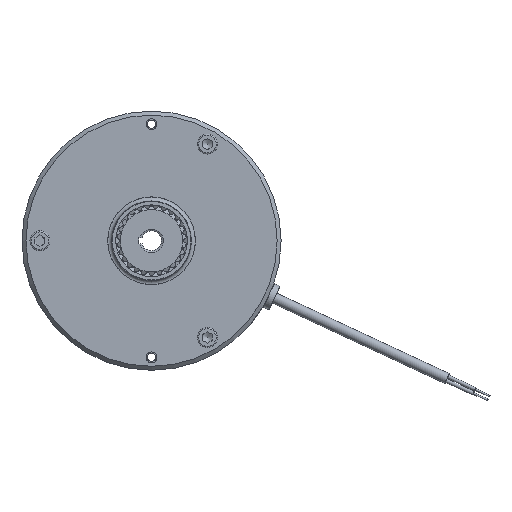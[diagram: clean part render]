
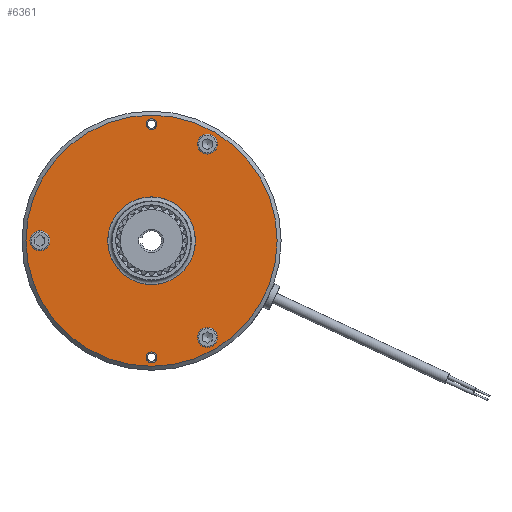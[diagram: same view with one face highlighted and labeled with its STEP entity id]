
A CAD part, left-side view. The second image highlights one B-rep face of the part: STEP entity #6361.
In plain terms, the highlighted planar face has unit normal (-1, 0, 0).
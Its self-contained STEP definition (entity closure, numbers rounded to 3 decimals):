
#525=FACE_BOUND('',#1487,.T.);
#526=FACE_BOUND('',#1488,.T.);
#527=FACE_BOUND('',#1489,.T.);
#528=FACE_BOUND('',#1490,.T.);
#529=FACE_BOUND('',#1491,.T.);
#530=FACE_BOUND('',#1492,.T.);
#694=CIRCLE('',#6782,5.);
#695=CIRCLE('',#6783,5.);
#708=CIRCLE('',#6810,5.);
#709=CIRCLE('',#6811,5.);
#738=CIRCLE('',#6866,5.);
#739=CIRCLE('',#6867,5.);
#759=CIRCLE('',#6905,2.7);
#760=CIRCLE('',#6906,2.7);
#762=CIRCLE('',#6909,2.7);
#763=CIRCLE('',#6910,2.7);
#765=CIRCLE('',#6913,63.);
#766=CIRCLE('',#6915,22.);
#1136=FACE_OUTER_BOUND('',#1486,.T.);
#1486=EDGE_LOOP('',(#4908));
#1487=EDGE_LOOP('',(#4909,#4910));
#1488=EDGE_LOOP('',(#4911,#4912));
#1489=EDGE_LOOP('',(#4913,#4914));
#1490=EDGE_LOOP('',(#4915,#4916));
#1491=EDGE_LOOP('',(#4917,#4918));
#1492=EDGE_LOOP('',(#4919));
#2575=VERTEX_POINT('',#10053);
#2576=VERTEX_POINT('',#10054);
#2602=VERTEX_POINT('',#10145);
#2603=VERTEX_POINT('',#10146);
#2650=VERTEX_POINT('',#10403);
#2651=VERTEX_POINT('',#10404);
#2677=VERTEX_POINT('',#10505);
#2678=VERTEX_POINT('',#10506);
#2680=VERTEX_POINT('',#10513);
#2681=VERTEX_POINT('',#10514);
#2683=VERTEX_POINT('',#10521);
#2684=VERTEX_POINT('',#10525);
#3330=EDGE_CURVE('',#2575,#2576,#694,.T.);
#3331=EDGE_CURVE('',#2576,#2575,#695,.T.);
#3367=EDGE_CURVE('',#2602,#2603,#708,.T.);
#3368=EDGE_CURVE('',#2603,#2602,#709,.T.);
#3432=EDGE_CURVE('',#2650,#2651,#738,.T.);
#3433=EDGE_CURVE('',#2651,#2650,#739,.T.);
#3475=EDGE_CURVE('',#2677,#2678,#759,.T.);
#3476=EDGE_CURVE('',#2678,#2677,#760,.T.);
#3479=EDGE_CURVE('',#2680,#2681,#762,.T.);
#3480=EDGE_CURVE('',#2681,#2680,#763,.T.);
#3484=EDGE_CURVE('',#2683,#2683,#765,.T.);
#3485=EDGE_CURVE('',#2684,#2684,#766,.T.);
#4908=ORIENTED_EDGE('',*,*,#3484,.F.);
#4909=ORIENTED_EDGE('',*,*,#3330,.T.);
#4910=ORIENTED_EDGE('',*,*,#3331,.T.);
#4911=ORIENTED_EDGE('',*,*,#3367,.T.);
#4912=ORIENTED_EDGE('',*,*,#3368,.T.);
#4913=ORIENTED_EDGE('',*,*,#3432,.T.);
#4914=ORIENTED_EDGE('',*,*,#3433,.T.);
#4915=ORIENTED_EDGE('',*,*,#3475,.T.);
#4916=ORIENTED_EDGE('',*,*,#3476,.T.);
#4917=ORIENTED_EDGE('',*,*,#3479,.T.);
#4918=ORIENTED_EDGE('',*,*,#3480,.T.);
#4919=ORIENTED_EDGE('',*,*,#3485,.T.);
#5830=PLANE('',#6914);
#6361=ADVANCED_FACE('',(#1136,#525,#526,#527,#528,#529,#530),#5830,.T.);
#6782=AXIS2_PLACEMENT_3D('',#10055,#7875,#7876);
#6783=AXIS2_PLACEMENT_3D('',#10056,#7877,#7878);
#6810=AXIS2_PLACEMENT_3D('',#10147,#7947,#7948);
#6811=AXIS2_PLACEMENT_3D('',#10148,#7949,#7950);
#6866=AXIS2_PLACEMENT_3D('',#10405,#8081,#8082);
#6867=AXIS2_PLACEMENT_3D('',#10406,#8083,#8084);
#6905=AXIS2_PLACEMENT_3D('',#10507,#8174,#8175);
#6906=AXIS2_PLACEMENT_3D('',#10508,#8176,#8177);
#6909=AXIS2_PLACEMENT_3D('',#10515,#8183,#8184);
#6910=AXIS2_PLACEMENT_3D('',#10516,#8185,#8186);
#6913=AXIS2_PLACEMENT_3D('',#10523,#8193,#8194);
#6914=AXIS2_PLACEMENT_3D('',#10524,#8195,#8196);
#6915=AXIS2_PLACEMENT_3D('',#10526,#8197,#8198);
#7875=DIRECTION('center_axis',(1.,0.,0.));
#7876=DIRECTION('ref_axis',(0.,-0.5,-0.866));
#7877=DIRECTION('center_axis',(1.,0.,0.));
#7878=DIRECTION('ref_axis',(0.,-0.5,-0.866));
#7947=DIRECTION('center_axis',(1.,0.,0.));
#7948=DIRECTION('ref_axis',(0.,-0.5,0.866));
#7949=DIRECTION('center_axis',(1.,0.,0.));
#7950=DIRECTION('ref_axis',(0.,-0.5,0.866));
#8081=DIRECTION('center_axis',(1.,0.,0.));
#8082=DIRECTION('ref_axis',(0.,1.,0.));
#8083=DIRECTION('center_axis',(1.,0.,0.));
#8084=DIRECTION('ref_axis',(0.,1.,0.));
#8174=DIRECTION('center_axis',(1.,0.,0.));
#8175=DIRECTION('ref_axis',(0.,0.,1.));
#8176=DIRECTION('center_axis',(1.,0.,0.));
#8177=DIRECTION('ref_axis',(0.,0.,1.));
#8183=DIRECTION('center_axis',(1.,0.,0.));
#8184=DIRECTION('ref_axis',(0.,0.,1.));
#8185=DIRECTION('center_axis',(1.,0.,0.));
#8186=DIRECTION('ref_axis',(0.,0.,1.));
#8193=DIRECTION('center_axis',(1.,0.,0.));
#8194=DIRECTION('ref_axis',(0.,-1.,0.));
#8195=DIRECTION('center_axis',(-1.,0.,0.));
#8196=DIRECTION('ref_axis',(0.,0.,1.));
#8197=DIRECTION('center_axis',(1.,0.,0.));
#8198=DIRECTION('ref_axis',(0.,0.,1.));
#10053=CARTESIAN_POINT('',(-33.2,-30.5,-52.828));
#10054=CARTESIAN_POINT('',(-33.2,-25.5,-44.167));
#10055=CARTESIAN_POINT('Origin',(-33.2,-28.,-48.497));
#10056=CARTESIAN_POINT('Origin',(-33.2,-28.,-48.497));
#10145=CARTESIAN_POINT('',(-33.2,-30.5,52.828));
#10146=CARTESIAN_POINT('',(-33.2,-25.5,44.167));
#10147=CARTESIAN_POINT('Origin',(-33.2,-28.,48.497));
#10148=CARTESIAN_POINT('Origin',(-33.2,-28.,48.497));
#10403=CARTESIAN_POINT('',(-33.2,61.,0.));
#10404=CARTESIAN_POINT('',(-33.2,51.,0.));
#10405=CARTESIAN_POINT('Origin',(-33.2,56.,0.));
#10406=CARTESIAN_POINT('Origin',(-33.2,56.,0.));
#10505=CARTESIAN_POINT('',(-33.2,0.,-55.8));
#10506=CARTESIAN_POINT('',(-33.2,0.,-61.2));
#10507=CARTESIAN_POINT('Origin',(-33.2,0.,-58.5));
#10508=CARTESIAN_POINT('Origin',(-33.2,0.,-58.5));
#10513=CARTESIAN_POINT('',(-33.2,0.,61.2));
#10514=CARTESIAN_POINT('',(-33.2,0.,55.8));
#10515=CARTESIAN_POINT('Origin',(-33.2,0.,58.5));
#10516=CARTESIAN_POINT('Origin',(-33.2,0.,58.5));
#10521=CARTESIAN_POINT('',(-33.2,63.,0.));
#10523=CARTESIAN_POINT('Origin',(-33.2,0.,0.));
#10524=CARTESIAN_POINT('Origin',(-33.2,32.5,0.));
#10525=CARTESIAN_POINT('',(-33.2,0.,-22.));
#10526=CARTESIAN_POINT('Origin',(-33.2,0.,0.));
